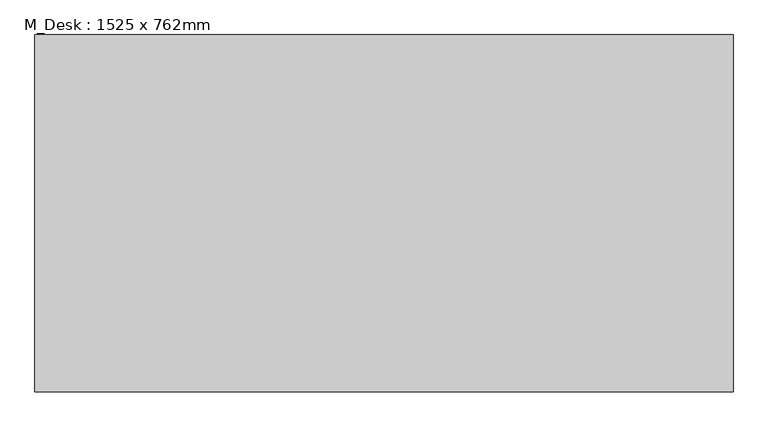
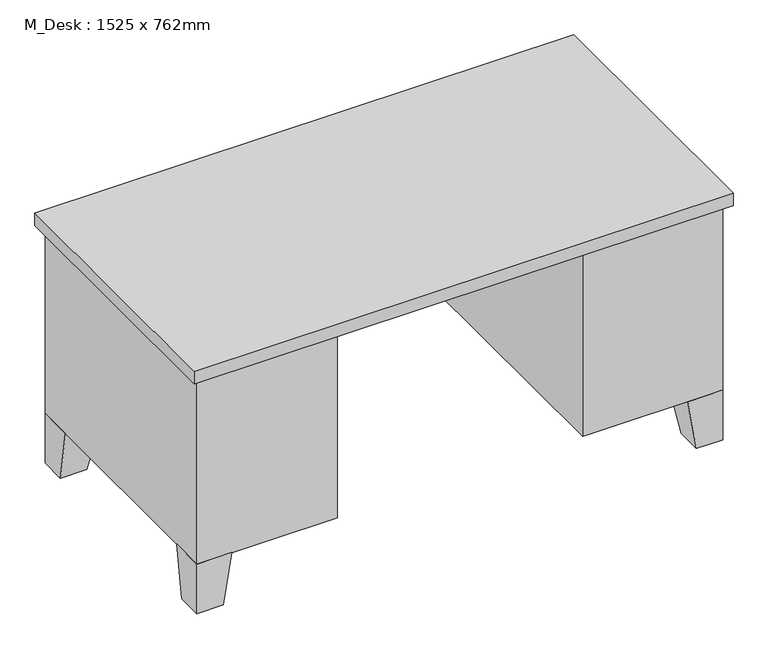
"""IFC4 building model written with IfcOpenShell, lengths in millimetres: furniture geometry, M_Desk : 1525 x 762mm."""

from ifc_helpers import new_model, si_unit, frame, origin, place, context, project, spatial, polyline, outline, extrude, faceted_brep, source, transform, mapped, element, save


def m_desk_1525_x_762mm_d591c397(model_context):
    return source(origin(), model_context, "Body", "SolidModel", [
        faceted_brep([(101.1, 0.0, 152.0), (101.1, 101.6, 152.0), (-0.5, 101.6, 152.0), (-0.5, 0.0, 152.0), (75.7, 0.0, 0.0), (-0.5, 0.0, 0.0), (-0.5, 76.2, 0.0), (75.7, 76.2, 0.0)], [[[0, 1, 2, 3]], [[4, 5, 6, 7]], [[4, 7, 1, 0]], [[7, 6, 2, 1]], [[6, 5, 3, 2]], [[5, 4, 0, 3]]]),
        faceted_brep([(101.1, 762.0, 152.0), (-0.5, 762.0, 152.0), (-0.5, 660.4, 152.0), (101.1, 660.4, 152.0), (75.7, 762.0, 0.0), (75.7, 685.8, 0.0), (-0.5, 685.8, 0.0), (-0.5, 762.0, 0.0)], [[[0, 1, 2, 3]], [[4, 5, 6, 7]], [[4, 7, 1, 0]], [[7, 6, 2, 1]], [[6, 5, 3, 2]], [[5, 4, 0, 3]]]),
        faceted_brep([(1422.9, 762.0, 152.0), (1422.9, 660.4, 152.0), (1524.5, 660.4, 152.0), (1524.5, 762.0, 152.0), (1448.3, 762.0, 0.0), (1524.5, 762.0, 0.0), (1524.5, 685.8, 0.0), (1448.3, 685.8, 0.0)], [[[0, 1, 2, 3]], [[4, 5, 6, 7]], [[4, 7, 1, 0]], [[7, 6, 2, 1]], [[6, 5, 3, 2]], [[5, 4, 0, 3]]]),
        faceted_brep([(1422.9, 0.0, 152.0), (1524.5, 0.0, 152.0), (1524.5, 101.6, 152.0), (1422.9, 101.6, 152.0), (1448.3, 0.0, 0.0), (1448.3, 76.2, 0.0), (1524.5, 76.2, 0.0), (1524.5, 0.0, 0.0)], [[[0, 1, 2, 3]], [[4, 5, 6, 7]], [[4, 7, 1, 0]], [[7, 6, 2, 1]], [[6, 5, 3, 2]], [[5, 4, 0, 3]]]),
        extrude(outline(polyline([(-19.55, -19.05), (-19.55, 781.05), (1543.55, 781.05), (1543.55, -19.05), (-19.55, -19.05)])), frame((0.0, 0.0, 723.9), z_axis=(0.0, 0.0, 1.0), x_axis=(1.0, 0.0, 0.0)), (0.0, 0.0, 1.0), 38.1),
        extrude(outline(polyline([(1118.1, 0.0), (1118.1, 762.0), (1524.5, 762.0), (1524.5, 0.0), (1118.1, 0.0)])), frame((0.0, 0.0, 152.0), z_axis=(0.0, 0.0, 1.0), x_axis=(1.0, 0.0, 0.0)), (0.0, 0.0, 1.0), 571.9),
        extrude(outline(polyline([(405.9, 0.0), (-0.5, 0.0), (-0.5, 762.0), (405.9, 762.0), (405.9, 0.0)])), frame((0.0, 0.0, 152.0), z_axis=(0.0, 0.0, 1.0), x_axis=(1.0, 0.0, 0.0)), (0.0, 0.0, 1.0), 571.9),
    ])


if __name__ == "__main__":
    model = new_model("IFC4")
    model_context = context("Model", 3, world=origin())
    ifc_project = project(units=[si_unit("LENGTHUNIT", "METRE", prefix="MILLI")], contexts=[model_context])
    site = spatial("IfcSite", under=ifc_project)
    building = spatial("IfcBuilding", under=site)
    placement = place(None, origin())
    m_desk_1525_x_762mm_shape = m_desk_1525_x_762mm_d591c397(model_context)
    element("IfcFurniture", 1, ObjectType="M_Desk : 1525 x 762mm", at=placement, inside=building, context=model_context, shape_type="MappedRepresentation", body=[
        mapped(m_desk_1525_x_762mm_shape, transform((0.0, 0.0, 0.0), x_axis=(1.0, 0.0, 0.0), y_axis=(0.0, 1.0, 0.0), z_axis=(0.0, 0.0, 1.0))),
    ])
    save(model, "model.ifc")
